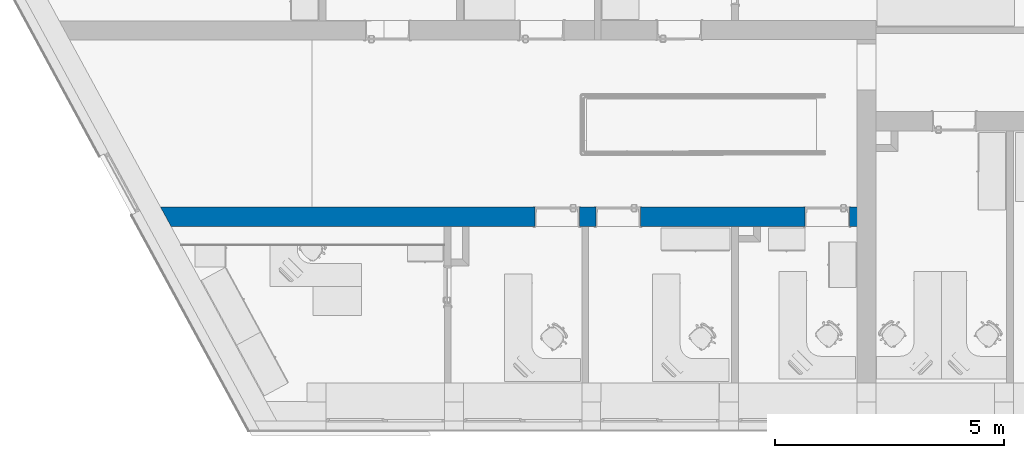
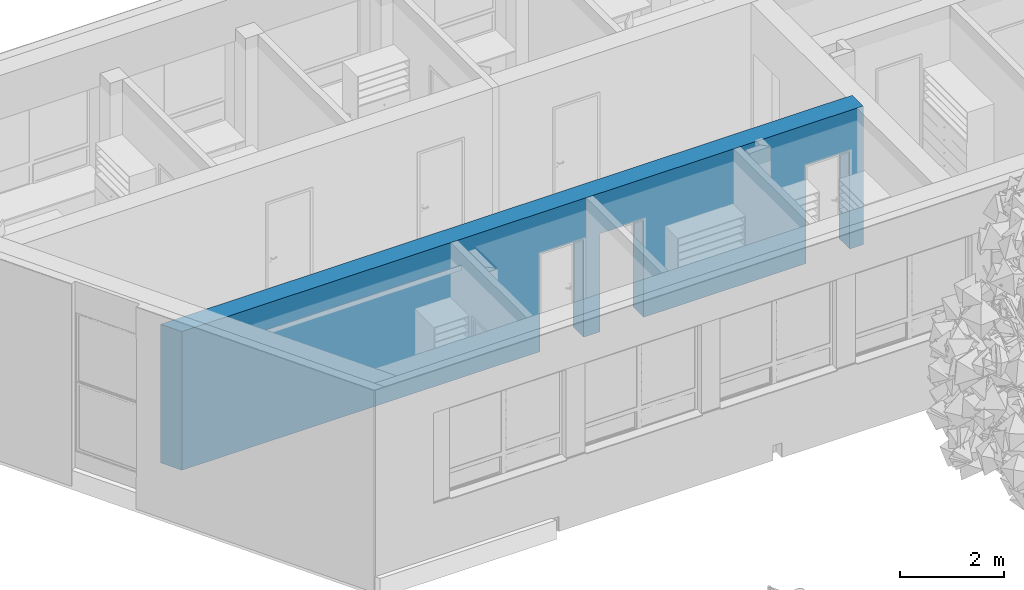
# One storey, part 5 of 194: 1 wall, 3 openings.
"""IFC2X3 building model written with IfcOpenShell, lengths in millimetres."""

from ifc_helpers import new_model, entity, si_unit, converted_unit, derived_unit, money_unit, direction, frame, origin_with_axes, origin_2d_with_axis, place, context, subcontext, project, spatial, polyline, rectangle, outline, extrude, material, layer, layer_set, layer_usage, type_object, element, save


model = new_model("IFC2X3")

# Units and contexts
model_context = context("Model", 3, precision=1e-05, world=origin_with_axes(), true_north=direction((0.0, 1.0)))
body_context = subcontext(model_context, "Body", "Model", "MODEL_VIEW")
ifc_project = project(units=[si_unit("LENGTHUNIT", "METRE", prefix="MILLI"), si_unit("AREAUNIT", "SQUARE_METRE"), si_unit("VOLUMEUNIT", "CUBIC_METRE"), converted_unit("PLANEANGLEUNIT", "DEGREE", entity("IfcPlaneAngleMeasure", 0.0174532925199), si_unit("PLANEANGLEUNIT", "RADIAN"), dimensions=[0, 0, 0, 0, 0, 0, 0]), si_unit("SOLIDANGLEUNIT", "STERADIAN"), money_unit("EUR"), converted_unit("TIMEUNIT", "Year", entity("IfcTimeMeasure", 31556926.0), si_unit("TIMEUNIT", "SECOND"), dimensions=[0, 0, 1, 0, 0, 0, 0]), si_unit("MASSUNIT", "GRAM", prefix="KILO"), si_unit("THERMODYNAMICTEMPERATUREUNIT", "DEGREE_CELSIUS"), si_unit("LUMINOUSINTENSITYUNIT", "LUMEN"), si_unit("ENERGYUNIT", "JOULE", prefix="MEGA"), derived_unit("THERMALCONDUCTANCEUNIT", [(si_unit("POWERUNIT", "WATT"), 1), (si_unit("LENGTHUNIT", "METRE"), -1), (si_unit("THERMODYNAMICTEMPERATUREUNIT", "KELVIN"), -1)]), derived_unit("SPECIFICHEATCAPACITYUNIT", [(si_unit("ENERGYUNIT", "JOULE"), 1), (si_unit("MASSUNIT", "GRAM", prefix="KILO"), -1), (si_unit("THERMODYNAMICTEMPERATUREUNIT", "KELVIN"), -1)]), derived_unit("MASSDENSITYUNIT", [(si_unit("MASSUNIT", "GRAM", prefix="KILO"), 1), (si_unit("VOLUMEUNIT", "CUBIC_METRE"), -1)])], contexts=[model_context])

# Site, building, storey
site_placement = place(None, origin_with_axes())
site = spatial("IfcSite", under=ifc_project, at=site_placement, Name="Site", CompositionType="ELEMENT")
building_placement = place(site_placement, origin_with_axes())
building = spatial("IfcBuilding", under=site, at=building_placement, Name="Building", CompositionType="ELEMENT")
storey_placement = place(building_placement, frame((0.0, 0.0, 3000.0), z_axis=(0.0, 0.0, 1.0), x_axis=(1.0, 0.0, 0.0)))
storey = spatial("IfcBuildingStorey", under=building, at=storey_placement, Name="2 KORRUS", CompositionType="ELEMENT", Elevation=3000.0)

# Wall, openings
ifc_material = material(Name="Kivi -Ol.Olev Konstruktsioon")
ifc_layer = layer(ifc_material, 420.0, ventilated="UNKNOWN")
ifc_layer_set = layer_set([ifc_layer], Name="ol.olev ss 420")
ifc_layer_usage = layer_usage(ifc_layer_set, "AXIS2", "POSITIVE", -420.0)
wall_type = type_object("IfcWallType", Name="SW - 022", PredefinedType="NOTDEFINED")
wall_placement = place(storey_placement, frame((15054.9397455, 39014.3351234, 0.0), z_axis=(0.0, 0.0, 1.0), x_axis=(1.0, 0.0, 0.0)))
wall = element("IfcWallStandardCase", 1, at=wall_placement, inside=storey, type_object=wall_type, material=ifc_layer_usage, Name="ol.olev ss 420", context=body_context, shape_type="SweptSolid", body=[
    extrude(outline(polyline([(717.717105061, -420.0), (15824.3829282, -420.0), (15824.3829282, 0.0), (489.419356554, 0.0), (717.717105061, -420.0)])), origin_with_axes(), (0.0, 0.0, 1.0), 3250.0),
])
opening_1_placement = place(wall_placement, frame((15035.6379856, 0.0, 0.0), z_axis=(0.0, 0.0, 1.0), x_axis=(1.0, 0.0, 0.0)))
element("IfcOpeningElement", 2, at=opening_1_placement, cuts=wall, Name="Siseuks * Door 22", context=body_context, shape_type="SweptSolid", body=[
    extrude(rectangle(XDim=970.0, YDim=2300.0, at=origin_2d_with_axis()), frame((0.0, -420.0, 1150.0), z_axis=(0.0, -1.0, 0.0), x_axis=(-1.0, 0.0, 0.0)), (0.0, 0.0, -1.0), 1260.0),
    extrude(rectangle(XDim=1044.0, YDim=2337.0, at=origin_2d_with_axis()), frame((0.0, -420.0, 1168.5), z_axis=(0.0, -1.0, 0.0), x_axis=(-1.0, 0.0, 0.0)), (0.0, 0.0, 1.0), 420.0),
    extrude(rectangle(XDim=1044.0, YDim=2337.0, at=origin_2d_with_axis()), frame((0.0, 0.0, 1168.5), z_axis=(0.0, 1.0, 0.0), x_axis=(-1.0, 0.0, 0.0)), (0.0, 0.0, 1.0), 420.0),
])
opening_2_placement = place(wall_placement, frame((10470.3590112, 0.0, 0.0), z_axis=(0.0, 0.0, 1.0), x_axis=(1.0, 0.0, 0.0)))
element("IfcOpeningElement", 3, at=opening_2_placement, cuts=wall, Name="Siseuks * Door 22", context=body_context, shape_type="SweptSolid", body=[
    extrude(rectangle(XDim=970.0, YDim=2300.0, at=origin_2d_with_axis()), frame((0.0, -420.0, 1150.0), z_axis=(0.0, -1.0, 0.0), x_axis=(-1.0, 0.0, 0.0)), (0.0, 0.0, -1.0), 1260.0),
    extrude(rectangle(XDim=1044.0, YDim=2337.0, at=origin_2d_with_axis()), frame((0.0, -420.0, 1168.5), z_axis=(0.0, -1.0, 0.0), x_axis=(-1.0, 0.0, 0.0)), (0.0, 0.0, 1.0), 420.0),
    extrude(rectangle(XDim=1044.0, YDim=2337.0, at=origin_2d_with_axis()), frame((0.0, 0.0, 1168.5), z_axis=(0.0, 1.0, 0.0), x_axis=(-1.0, 0.0, 0.0)), (0.0, 0.0, 1.0), 420.0),
])
opening_3_placement = place(wall_placement, frame((9140.18514164, 0.0, 0.0), z_axis=(0.0, 0.0, 1.0), x_axis=(1.0, 0.0, 0.0)))
element("IfcOpeningElement", 4, at=opening_3_placement, cuts=wall, Name="Siseuks * Door 22", context=body_context, shape_type="SweptSolid", body=[
    extrude(rectangle(XDim=970.0, YDim=2300.0, at=origin_2d_with_axis()), frame((0.0, -420.0, 1150.0), z_axis=(0.0, -1.0, 0.0), x_axis=(-1.0, 0.0, 0.0)), (0.0, 0.0, -1.0), 1260.0),
    extrude(rectangle(XDim=1044.0, YDim=2337.0, at=origin_2d_with_axis()), frame((0.0, -420.0, 1168.5), z_axis=(0.0, -1.0, 0.0), x_axis=(-1.0, 0.0, 0.0)), (0.0, 0.0, 1.0), 420.0),
    extrude(rectangle(XDim=1044.0, YDim=2337.0, at=origin_2d_with_axis()), frame((0.0, 0.0, 1168.5), z_axis=(0.0, 1.0, 0.0), x_axis=(-1.0, 0.0, 0.0)), (0.0, 0.0, 1.0), 420.0),
])

save(model, "model.ifc")
